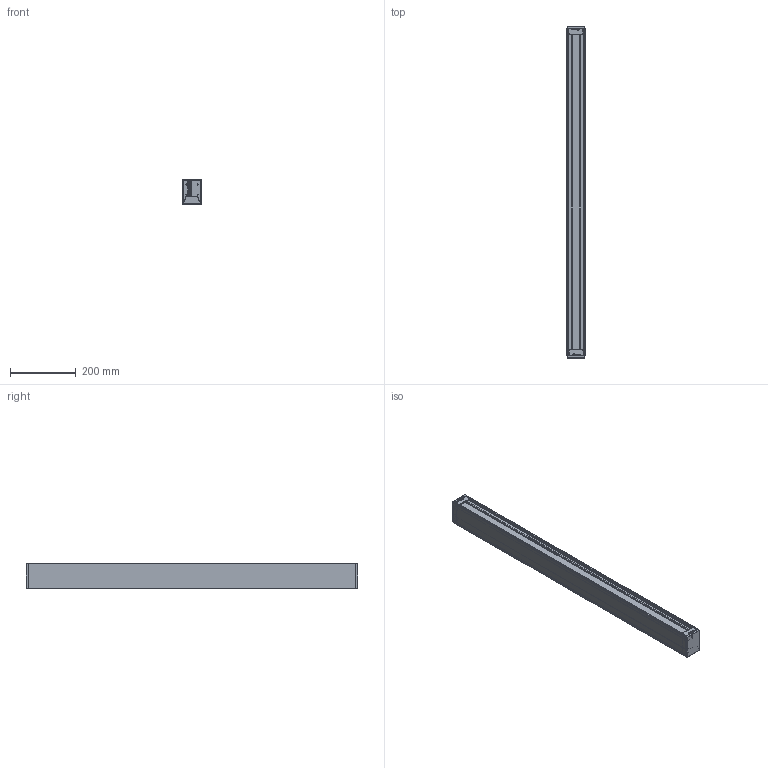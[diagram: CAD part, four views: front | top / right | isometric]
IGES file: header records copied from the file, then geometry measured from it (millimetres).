
Global section: file name: C:\Users\info\Desktop\CRIS\05. NEW PRODUCT\LUMINARIA KISS\3D para web\KISS L100 - IGS.igs; native system: Rhinoceros ( Feb 27 2019 ); preprocessor: Trout Lake IGES 012 Feb 27 2019; date: 260427.140111; units: millimetre
Bounding box: 55 x 1013.48 x 75 mm (x, y, z)
Surface area: 875878.6 mm2 (no closed solid volume)
Topology: 0 solids, 0 shells, 2006 faces, 17994 edges, 17988 vertices
Faces by surface type: bspline 2006
